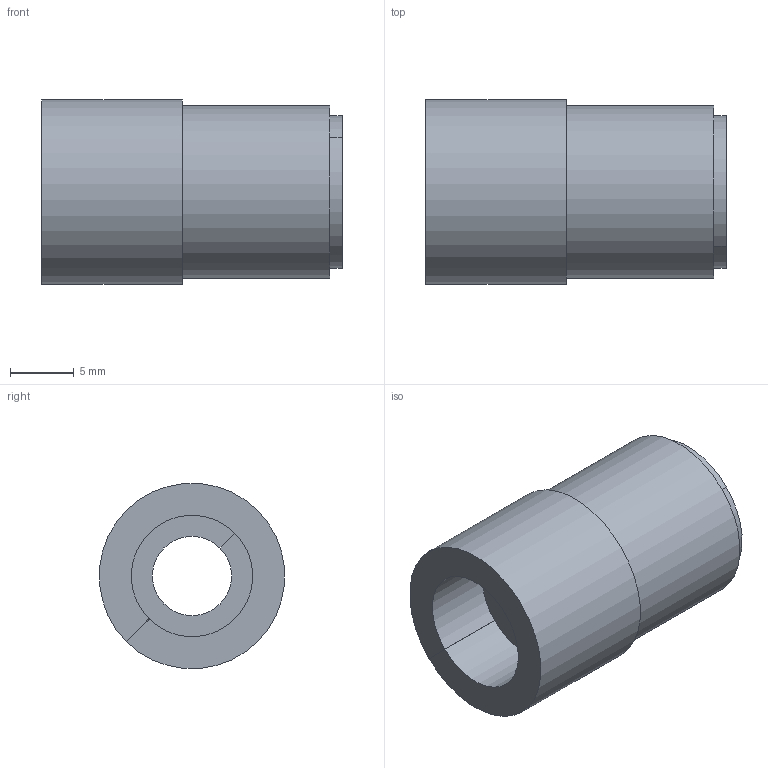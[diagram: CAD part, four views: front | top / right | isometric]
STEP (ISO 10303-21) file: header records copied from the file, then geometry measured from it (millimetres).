
FILE_DESCRIPTION(('Creo Elements/Direct Modeling STEP Export'),'2;1');
FILE_NAME('H23-0002-CL961-00_G11-09RS.stp','2023-10-03T14:37:33',(''),(''),'Creo Elements/Direct Modeling STEP processor for AP214 (Solid Model)','Creo Elements/Direct Modeling 20.3B 05-Dec-2020 (C) Parametric Technology GmbH','');
FILE_SCHEMA(('AUTOMOTIVE_DESIGN { 1 0 10303 214 1 1 1 1 }'));
Length unit declared in the file: millimetre
Products named in the file (3): RUBBER_BUSHING_A; RUBBER_BUSHING_B; H23-0002-CL961-00_G11-09RS
Assembly tree (2 placements, depth 2):
  H23-0002-CL961-00_G11-09RS
    RUBBER_BUSHING_B
    RUBBER_BUSHING_A
Bounding box: 23.5 x 14.45 x 14.45 mm (x, y, z)
Volume: 2644.1 mm3; surface area: 3070.2 mm2
Topology: 2 solids, 2 shells, 19 faces, 45 edges, 30 vertices
Faces by surface type: plane 10, cylinder 7, torus 2
Entity records: 678 total; most frequent: CARTESIAN_POINT 146, DIRECTION 102, ORIENTED_EDGE 90, EDGE_CURVE 45, AXIS2_PLACEMENT_3D 38, VERTEX_POINT 30, VECTOR 26, LINE 26
